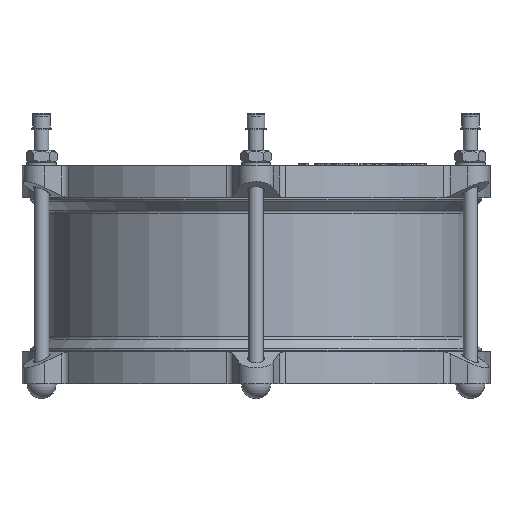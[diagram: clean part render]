
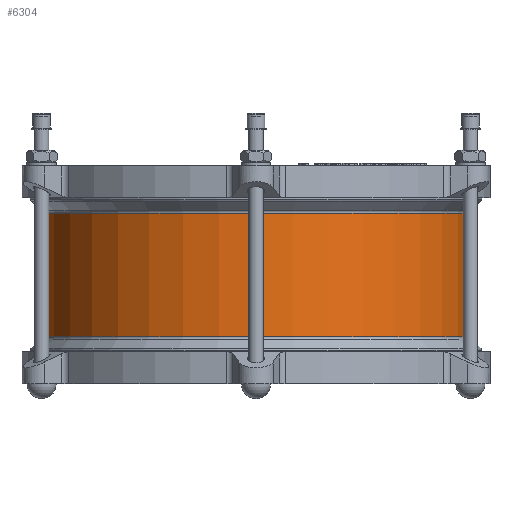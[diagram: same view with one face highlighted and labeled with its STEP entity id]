
A CAD part, left-side view. The second image highlights one B-rep face of the part: STEP entity #6304.
In plain terms, the highlighted cylindrical face has radius 175.5 mm (diameter 351 mm), a full revolution.
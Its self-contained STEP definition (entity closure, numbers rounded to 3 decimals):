
#6304=ADVANCED_FACE('',(#11563,#11565),#11567,.T.);
#11563=FACE_OUTER_BOUND('',#11564,.T.);
#11564=EDGE_LOOP('',(#17349));
#11565=FACE_OUTER_BOUND('',#11566,.T.);
#11566=EDGE_LOOP('',(#17350));
#11567=CYLINDRICAL_SURFACE('',#11568,175.5);
#11568=AXIS2_PLACEMENT_3D('',#11569,#11570,#11571);
#11569=CARTESIAN_POINT('',(0.,0.,51.757));
#11570=DIRECTION('',(0.,0.,-1.));
#11571=DIRECTION('',(0.,1.,0.));
#17349=ORIENTED_EDGE('',*,*,#19757,.T.);
#17350=ORIENTED_EDGE('',*,*,#19758,.F.);
#19757=EDGE_CURVE('',#23119,#23119,#23120,.T.);
#19758=EDGE_CURVE('',#23121,#23121,#23122,.T.);
#23119=VERTEX_POINT('',#35184);
#23120=CIRCLE('',#35185,175.5);
#23121=VERTEX_POINT('',#35189);
#23122=CIRCLE('',#35190,175.5);
#35184=CARTESIAN_POINT('',(0.,175.5,50.515));
#35185=AXIS2_PLACEMENT_3D('',#35186,#35187,#35188);
#35186=CARTESIAN_POINT('',(0.,0.,50.515));
#35187=DIRECTION('',(0.,0.,-1.));
#35188=DIRECTION('',(0.,1.,0.));
#35189=CARTESIAN_POINT('',(0.,175.5,-50.515));
#35190=AXIS2_PLACEMENT_3D('',#35191,#35192,#35193);
#35191=CARTESIAN_POINT('',(0.,0.,-50.515));
#35192=DIRECTION('',(0.,0.,-1.));
#35193=DIRECTION('',(0.,1.,0.));
